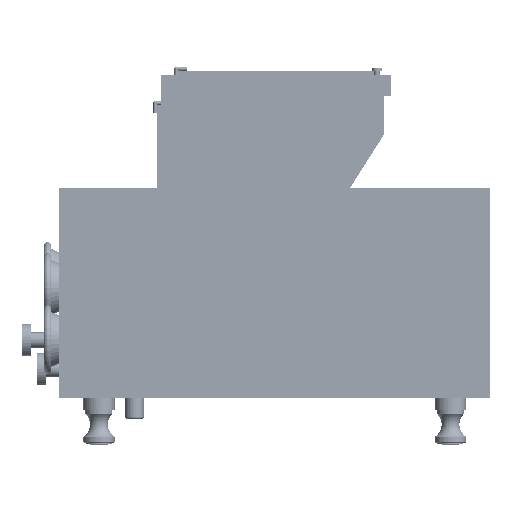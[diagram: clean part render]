
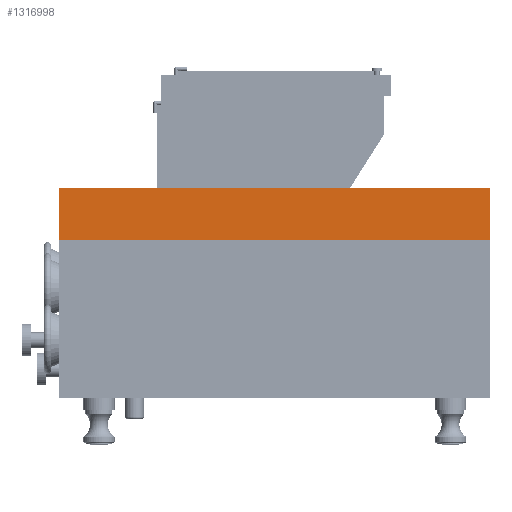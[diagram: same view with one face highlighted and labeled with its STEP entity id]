
A CAD part, left-side view. The second image highlights one B-rep face of the part: STEP entity #1316998.
In plain terms, the highlighted planar face has unit normal (-1, 0, 0).
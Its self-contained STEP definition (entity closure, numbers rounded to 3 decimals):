
#1316496 = PLANE('',#1316497);
#1316497 = AXIS2_PLACEMENT_3D('',#1316498,#1316499,#1316500);
#1316498 = CARTESIAN_POINT('',(382.,0.,75.99));
#1316499 = DIRECTION('',(-0.,1.,-0.));
#1316500 = DIRECTION('',(0.,0.,-1.));
#1316524 = PLANE('',#1316525);
#1316525 = AXIS2_PLACEMENT_3D('',#1316526,#1316527,#1316528);
#1316526 = CARTESIAN_POINT('',(382.,0.,75.99));
#1316527 = DIRECTION('',(-0.,-0.,1.));
#1316528 = DIRECTION('',(1.,0.,0.));
#1316552 = PLANE('',#1316553);
#1316553 = AXIS2_PLACEMENT_3D('',#1316554,#1316555,#1316556);
#1316554 = CARTESIAN_POINT('',(382.,207.,75.99));
#1316555 = DIRECTION('',(-0.,1.,-0.));
#1316556 = DIRECTION('',(0.,0.,-1.));
#1316578 = PLANE('',#1316579);
#1316579 = AXIS2_PLACEMENT_3D('',#1316580,#1316581,#1316582);
#1316580 = CARTESIAN_POINT('',(382.,0.,100.99));
#1316581 = DIRECTION('',(-0.,-0.,1.));
#1316582 = DIRECTION('',(1.,0.,0.));
#1316594 = VERTEX_POINT('',#1316595);
#1316595 = CARTESIAN_POINT('',(0.,0.,75.99));
#1316618 = VERTEX_POINT('',#1316619);
#1316619 = CARTESIAN_POINT('',(0.,0.,100.99));
#1316640 = EDGE_CURVE('',#1316594,#1316618,#1316641,.T.);
#1316641 = SURFACE_CURVE('',#1316642,(#1316646,#1316653),.PCURVE_S1.);
#1316642 = LINE('',#1316643,#1316644);
#1316643 = CARTESIAN_POINT('',(0.,0.,75.99));
#1316644 = VECTOR('',#1316645,1.);
#1316645 = DIRECTION('',(-0.,-0.,1.));
#1316646 = PCURVE('',#1316496,#1316647);
#1316647 = DEFINITIONAL_REPRESENTATION('',(#1316648),#1316652);
#1316648 = LINE('',#1316649,#1316650);
#1316649 = CARTESIAN_POINT('',(-0.,382.));
#1316650 = VECTOR('',#1316651,1.);
#1316651 = DIRECTION('',(-1.,0.));
#1316652 = ( GEOMETRIC_REPRESENTATION_CONTEXT(2) 
PARAMETRIC_REPRESENTATION_CONTEXT() REPRESENTATION_CONTEXT('2D SPACE',''
  ) );
#1316653 = PCURVE('',#1316654,#1316659);
#1316654 = PLANE('',#1316655);
#1316655 = AXIS2_PLACEMENT_3D('',#1316656,#1316657,#1316658);
#1316656 = CARTESIAN_POINT('',(0.,0.,75.99));
#1316657 = DIRECTION('',(-1.,-0.,-0.));
#1316658 = DIRECTION('',(0.,0.,-1.));
#1316659 = DEFINITIONAL_REPRESENTATION('',(#1316660),#1316664);
#1316660 = LINE('',#1316661,#1316662);
#1316661 = CARTESIAN_POINT('',(-0.,-0.));
#1316662 = VECTOR('',#1316663,1.);
#1316663 = DIRECTION('',(-1.,-0.));
#1316664 = ( GEOMETRIC_REPRESENTATION_CONTEXT(2) 
PARAMETRIC_REPRESENTATION_CONTEXT() REPRESENTATION_CONTEXT('2D SPACE',''
  ) );
#1316671 = EDGE_CURVE('',#1316618,#1316672,#1316674,.T.);
#1316672 = VERTEX_POINT('',#1316673);
#1316673 = CARTESIAN_POINT('',(0.,207.,100.99));
#1316674 = SURFACE_CURVE('',#1316675,(#1316679,#1316686),.PCURVE_S1.);
#1316675 = LINE('',#1316676,#1316677);
#1316676 = CARTESIAN_POINT('',(0.,0.,100.99));
#1316677 = VECTOR('',#1316678,1.);
#1316678 = DIRECTION('',(-0.,1.,-0.));
#1316679 = PCURVE('',#1316578,#1316680);
#1316680 = DEFINITIONAL_REPRESENTATION('',(#1316681),#1316685);
#1316681 = LINE('',#1316682,#1316683);
#1316682 = CARTESIAN_POINT('',(-382.,0.));
#1316683 = VECTOR('',#1316684,1.);
#1316684 = DIRECTION('',(-0.,1.));
#1316685 = ( GEOMETRIC_REPRESENTATION_CONTEXT(2) 
PARAMETRIC_REPRESENTATION_CONTEXT() REPRESENTATION_CONTEXT('2D SPACE',''
  ) );
#1316686 = PCURVE('',#1316654,#1316687);
#1316687 = DEFINITIONAL_REPRESENTATION('',(#1316688),#1316692);
#1316688 = LINE('',#1316689,#1316690);
#1316689 = CARTESIAN_POINT('',(-25.,-0.));
#1316690 = VECTOR('',#1316691,1.);
#1316691 = DIRECTION('',(-0.,-1.));
#1316692 = ( GEOMETRIC_REPRESENTATION_CONTEXT(2) 
PARAMETRIC_REPRESENTATION_CONTEXT() REPRESENTATION_CONTEXT('2D SPACE',''
  ) );
#1316833 = VERTEX_POINT('',#1316834);
#1316834 = CARTESIAN_POINT('',(0.,207.,75.99));
#1316857 = EDGE_CURVE('',#1316833,#1316672,#1316858,.T.);
#1316858 = SURFACE_CURVE('',#1316859,(#1316863,#1316870),.PCURVE_S1.);
#1316859 = LINE('',#1316860,#1316861);
#1316860 = CARTESIAN_POINT('',(0.,207.,75.99));
#1316861 = VECTOR('',#1316862,1.);
#1316862 = DIRECTION('',(-0.,-0.,1.));
#1316863 = PCURVE('',#1316552,#1316864);
#1316864 = DEFINITIONAL_REPRESENTATION('',(#1316865),#1316869);
#1316865 = LINE('',#1316866,#1316867);
#1316866 = CARTESIAN_POINT('',(-0.,382.));
#1316867 = VECTOR('',#1316868,1.);
#1316868 = DIRECTION('',(-1.,0.));
#1316869 = ( GEOMETRIC_REPRESENTATION_CONTEXT(2) 
PARAMETRIC_REPRESENTATION_CONTEXT() REPRESENTATION_CONTEXT('2D SPACE',''
  ) );
#1316870 = PCURVE('',#1316654,#1316871);
#1316871 = DEFINITIONAL_REPRESENTATION('',(#1316872),#1316876);
#1316872 = LINE('',#1316873,#1316874);
#1316873 = CARTESIAN_POINT('',(-0.,-207.));
#1316874 = VECTOR('',#1316875,1.);
#1316875 = DIRECTION('',(-1.,-0.));
#1316876 = ( GEOMETRIC_REPRESENTATION_CONTEXT(2) 
PARAMETRIC_REPRESENTATION_CONTEXT() REPRESENTATION_CONTEXT('2D SPACE',''
  ) );
#1316883 = EDGE_CURVE('',#1316594,#1316833,#1316884,.T.);
#1316884 = SURFACE_CURVE('',#1316885,(#1316889,#1316896),.PCURVE_S1.);
#1316885 = LINE('',#1316886,#1316887);
#1316886 = CARTESIAN_POINT('',(0.,0.,75.99));
#1316887 = VECTOR('',#1316888,1.);
#1316888 = DIRECTION('',(-0.,1.,-0.));
#1316889 = PCURVE('',#1316524,#1316890);
#1316890 = DEFINITIONAL_REPRESENTATION('',(#1316891),#1316895);
#1316891 = LINE('',#1316892,#1316893);
#1316892 = CARTESIAN_POINT('',(-382.,0.));
#1316893 = VECTOR('',#1316894,1.);
#1316894 = DIRECTION('',(-0.,1.));
#1316895 = ( GEOMETRIC_REPRESENTATION_CONTEXT(2) 
PARAMETRIC_REPRESENTATION_CONTEXT() REPRESENTATION_CONTEXT('2D SPACE',''
  ) );
#1316896 = PCURVE('',#1316654,#1316897);
#1316897 = DEFINITIONAL_REPRESENTATION('',(#1316898),#1316902);
#1316898 = LINE('',#1316899,#1316900);
#1316899 = CARTESIAN_POINT('',(-0.,-0.));
#1316900 = VECTOR('',#1316901,1.);
#1316901 = DIRECTION('',(-0.,-1.));
#1316902 = ( GEOMETRIC_REPRESENTATION_CONTEXT(2) 
PARAMETRIC_REPRESENTATION_CONTEXT() REPRESENTATION_CONTEXT('2D SPACE',''
  ) );
#1316998 = ADVANCED_FACE('',(#1316999),#1316654,.T.);
#1316999 = FACE_BOUND('',#1317000,.F.);
#1317000 = EDGE_LOOP('',(#1317001,#1317002,#1317003,#1317004));
#1317001 = ORIENTED_EDGE('',*,*,#1316640,.F.);
#1317002 = ORIENTED_EDGE('',*,*,#1316883,.T.);
#1317003 = ORIENTED_EDGE('',*,*,#1316857,.T.);
#1317004 = ORIENTED_EDGE('',*,*,#1316671,.F.);
